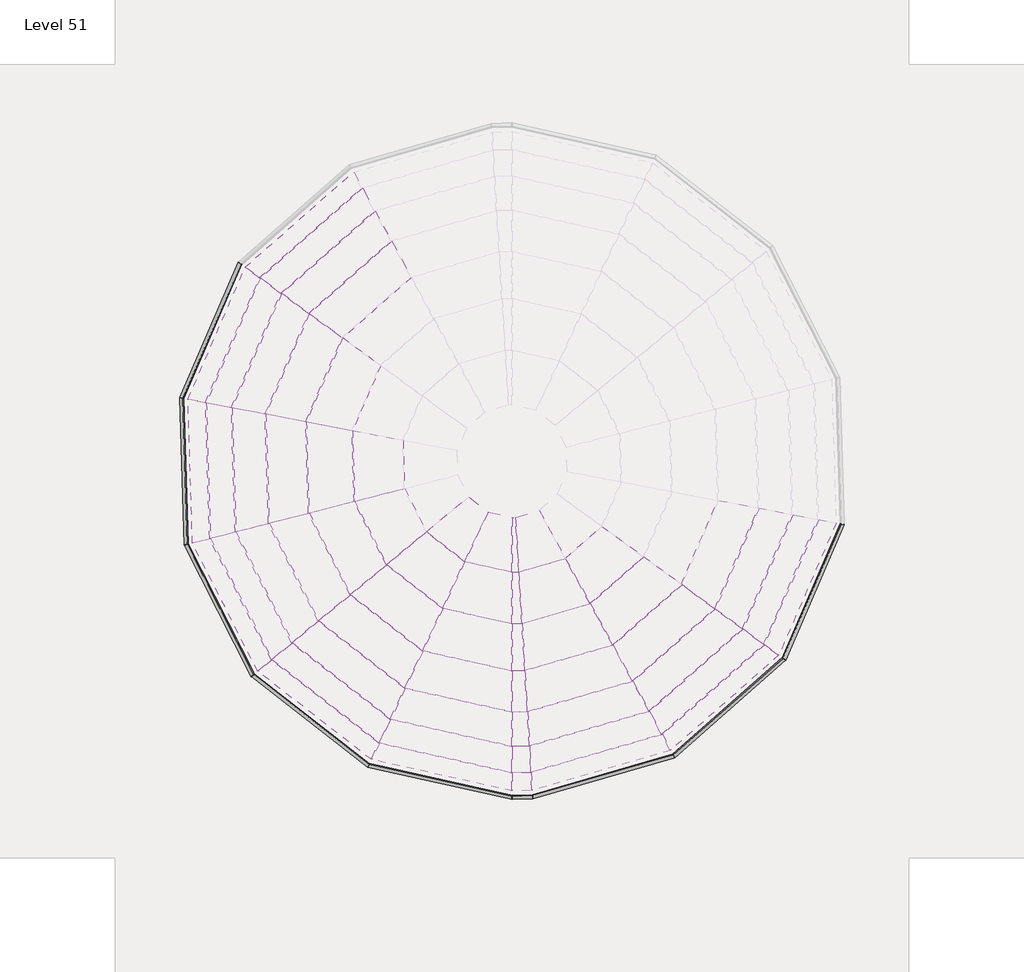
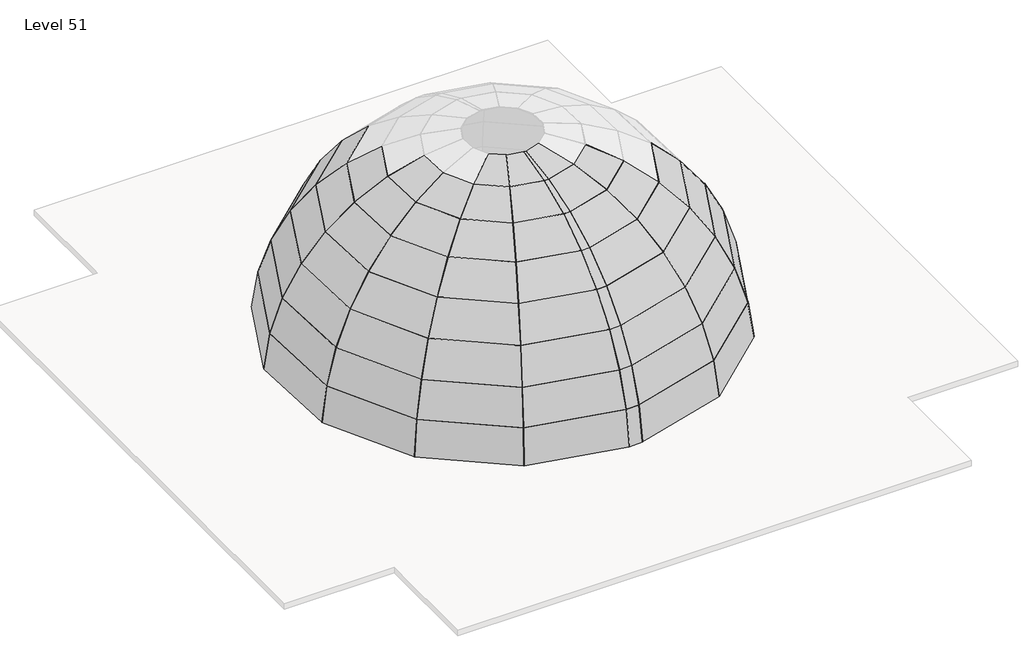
# One storey, part 1 of 2: 68 plates.
"""IFC4 building model written with IfcOpenShell, lengths in millimetres."""

from ifc_helpers import new_model, si_unit, origin, place, context, project, spatial, transform, mapped, element, save
from components import system_panel_glazed_204f7a7e, system_panel_glazed_43493433, system_panel_glazed_94d2837d, system_panel_glazed_dce3fa4b, system_panel_glazed_934d1cd6, system_panel_glazed_a686362b, system_panel_glazed_9bed2f76, system_panel_glazed_d5d8f7c1, system_panel_glazed_56061e2f, system_panel_glazed_56afd472, system_panel_glazed_cdd31af4, system_panel_glazed_3dff9bfd, system_panel_glazed_139bc032, system_panel_glazed_d13a0f6a, system_panel_glazed_7eec9ae9, system_panel_glazed_885a54fe

model = new_model("IFC4")

# Units and contexts
model_context = context("Model", 3, world=origin())
ifc_project = project(units=[si_unit("LENGTHUNIT", "METRE", prefix="MILLI")], contexts=[model_context])

# Site, building, storey
site = spatial("IfcSite", under=ifc_project)
building = spatial("IfcBuilding", under=site)
storey = spatial("IfcBuildingStorey", under=building, Name="Level 51", Elevation=152400.0)

# Plates
placement = place(None, origin())
system_panel_glazed_shape = system_panel_glazed_204f7a7e(model_context)
element("IfcPlate", 1, ObjectType="System Panel : Glazed", at=placement, inside=storey, context=model_context, shape_type="MappedRepresentation", body=[
    mapped(system_panel_glazed_shape, transform((3193.0877593, -7639.7651167, 161416.1055894), x_axis=(-0.9759000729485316, 0.2182178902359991, 0.0), y_axis=(0.05542611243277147, 0.2478731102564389, -0.9672057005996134), z_axis=(-0.2110615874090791, -0.9438961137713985, -0.2539943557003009))),
])
element("IfcPlate", 2, ObjectType="System Panel : Glazed", at=placement, inside=storey, context=model_context, shape_type="MappedRepresentation", body=[
    mapped(system_panel_glazed_shape, transform((2605.8080826, -7363.3025317, 161416.1055894), x_axis=(-0.790014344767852, 0.6130883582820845, 0.0), y_axis=(0.15572098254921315, 0.20065918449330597, -0.9672057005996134), z_axis=(-0.5929825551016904, -0.7641063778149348, -0.2539943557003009))),
])
element("IfcPlate", 3, ObjectType="System Panel : Glazed", at=placement, inside=storey, context=model_context, shape_type="MappedRepresentation", body=[
    mapped(system_panel_glazed_shape, transform((3931.1522218, -7616.9660806, 161416.1055894), x_axis=(-0.9605706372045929, -0.2780360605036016, 0.0), y_axis=(-0.07061959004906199, 0.24397952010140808, -0.9672057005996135), z_axis=(0.26891806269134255, -0.9290693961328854, -0.2539943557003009))),
])
system_panel_glazed_2_shape = system_panel_glazed_43493433(model_context)
element("IfcPlate", 4, ObjectType="System Panel : Glazed", at=placement, inside=storey, context=model_context, shape_type="MappedRepresentation", body=[
    mapped(system_panel_glazed_2_shape, transform((3564.6690003, -7710.8837141, 161416.1055894), x_axis=(-0.9995232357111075, -0.030875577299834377, 0.0), y_axis=(-0.007668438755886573, 0.24824743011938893, -0.9686663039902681), z_axis=(0.029908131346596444, -0.968204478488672, -0.2483658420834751))),
])
system_panel_glazed_3_shape = system_panel_glazed_94d2837d(model_context)
element("IfcPlate", 5, ObjectType="System Panel : Glazed", at=placement, inside=storey, context=model_context, shape_type="MappedRepresentation", body=[
    mapped(system_panel_glazed_3_shape, transform((2878.6985493, -9045.7564067, 161037.7653816), x_axis=(-0.9759000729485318, 0.21821789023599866, 0.0), y_axis=(0.09034502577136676, 0.40403523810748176, -0.9102710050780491), z_axis=(-0.19863741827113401, -0.8883335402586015, -0.41401291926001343))),
])
element("IfcPlate", 6, ObjectType="System Panel : Glazed", at=placement, inside=storey, context=model_context, shape_type="MappedRepresentation", body=[
    mapped(system_panel_glazed_3_shape, transform((1722.5241116, -8501.4859569, 161037.7653816), x_axis=(-0.7900143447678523, 0.6130883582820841, 0.0), y_axis=(0.25382650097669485, 0.32707614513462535, -0.910271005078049), z_axis=(-0.5580765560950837, -0.7191271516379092, -0.4140129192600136))),
])
element("IfcPlate", 7, ObjectType="System Panel : Glazed", at=placement, inside=storey, context=model_context, shape_type="MappedRepresentation", body=[
    mapped(system_panel_glazed_3_shape, transform((908.2759487, -7516.6156192, 161037.7653816), x_axis=(-0.45364969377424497, 0.8911800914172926, 0.0), y_axis=(0.36896007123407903, 0.18781683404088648, -0.910271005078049), z_axis=(-0.8112153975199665, -0.4129441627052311, -0.4140129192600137))),
])
element("IfcPlate", 8, ObjectType="System Panel : Glazed", at=placement, inside=storey, context=model_context, shape_type="MappedRepresentation", body=[
    mapped(system_panel_glazed_3_shape, transform((591.0489488, -6278.7397436, 161037.7653816), x_axis=(-0.030875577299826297, 0.9995232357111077, 0.0), y_axis=(0.41381553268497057, 0.01278288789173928, -0.910271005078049), z_axis=(-0.9098370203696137, -0.028105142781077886, -0.4140129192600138))),
])
element("IfcPlate", 9, ObjectType="System Panel : Glazed", at=placement, inside=storey, context=model_context, shape_type="MappedRepresentation", body=[
    mapped(system_panel_glazed_3_shape, transform((5452.0989763, -8386.278253, 161037.7653816), x_axis=(-0.7506672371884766, -0.6606804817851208, 0.0), y_axis=(-0.27353025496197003, 0.31078593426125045, -0.910271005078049), z_axis=(0.6013982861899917, -0.6833106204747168, -0.4140129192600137))),
])
element("IfcPlate", 10, ObjectType="System Panel : Glazed", at=placement, inside=storey, context=model_context, shape_type="MappedRepresentation", body=[
    mapped(system_panel_glazed_3_shape, transform((4331.7222087, -9000.8720632, 161037.7653816), x_axis=(-0.9605706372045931, -0.2780360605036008, 0.0), y_axis=(-0.11511052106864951, 0.39768865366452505, -0.910271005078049), z_axis=(0.253088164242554, -0.874379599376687, -0.4140129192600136))),
])
system_panel_glazed_4_shape = system_panel_glazed_dce3fa4b(model_context)
element("IfcPlate", 11, ObjectType="System Panel : Glazed", at=placement, inside=storey, context=model_context, shape_type="MappedRepresentation", body=[
    mapped(system_panel_glazed_4_shape, transform((3610.2286012, -9185.7672187, 161037.7653816), x_axis=(-0.9995232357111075, -0.030875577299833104, 0.0), y_axis=(-0.01253103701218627, 0.4056624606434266, -0.9139370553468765), z_axis=(0.02821833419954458, -0.9135013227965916, -0.40585595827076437))),
])
system_panel_glazed_5_shape = system_panel_glazed_934d1cd6(model_context)
element("IfcPlate", 12, ObjectType="System Panel : Glazed", at=placement, inside=storey, context=model_context, shape_type="MappedRepresentation", body=[
    mapped(system_panel_glazed_5_shape, transform((2582.0576311, -10372.3749228, 160419.4872466), x_axis=(-0.9759000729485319, 0.2182178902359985, 0.0), y_axis=(0.12247171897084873, 0.5477101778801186, -0.8276558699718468), z_axis=(-0.18060931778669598, -0.8077094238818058, -0.5612359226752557))),
])
element("IfcPlate", 13, ObjectType="System Panel : Glazed", at=placement, inside=storey, context=model_context, shape_type="MappedRepresentation", body=[
    mapped(system_panel_glazed_5_shape, transform((889.104389, -9575.4152319, 160419.4872466), x_axis=(-0.7900143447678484, 0.6130883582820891, 0.0), y_axis=(0.34408721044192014, 0.44338442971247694, -0.8276558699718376), z_axis=(-0.5074261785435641, -0.6538600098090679, -0.5612359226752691))),
])
element("IfcPlate", 14, ObjectType="System Panel : Glazed", at=placement, inside=storey, context=model_context, shape_type="MappedRepresentation", body=[
    mapped(system_panel_glazed_5_shape, transform((-303.1759645, -8133.2976958, 160419.4872466), x_axis=(-0.45364969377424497, 0.8911800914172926, 0.0), y_axis=(0.5001622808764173, 0.25460450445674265, -0.8276558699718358), z_axis=(-0.7375904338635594, -0.37546583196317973, -0.5612359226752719))),
])
element("IfcPlate", 15, ObjectType="System Panel : Glazed", at=placement, inside=storey, context=model_context, shape_type="MappedRepresentation", body=[
    mapped(system_panel_glazed_5_shape, transform((-767.6824096, -6320.7113692, 160419.4872466), x_axis=(-0.030875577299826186, 0.9995232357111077, 0.0), y_axis=(0.5609683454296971, 0.017328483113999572, -0.8276558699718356), z_axis=(-0.8272612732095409, -0.025554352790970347, -0.5612359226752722))),
])
element("IfcPlate", 16, ObjectType="System Panel : Glazed", at=placement, inside=storey, context=model_context, shape_type="MappedRepresentation", body=[
    mapped(system_panel_glazed_5_shape, transform((-415.9375282, -4482.9107904, 160419.4872466), x_axis=(0.39777960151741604, 0.9174810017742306, 0.0), y_axis=(0.5149232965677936, -0.22324820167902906, -0.8276558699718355), z_axis=(-0.759358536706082, 0.32922462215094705, -0.5612359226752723))),
])
element("IfcPlate", 17, ObjectType="System Panel : Glazed", at=placement, inside=storey, context=model_context, shape_type="MappedRepresentation", body=[
    mapped(system_panel_glazed_5_shape, transform((6350.2144542, -9406.719878, 160419.4872466), x_axis=(-0.7506672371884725, -0.6606804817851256, 0.0), y_axis=(-0.3707976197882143, 0.42130141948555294, -0.827655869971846), z_axis=(0.5468160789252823, -0.6212941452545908, -0.5612359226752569))),
])
element("IfcPlate", 18, ObjectType="System Panel : Glazed", at=placement, inside=storey, context=model_context, shape_type="MappedRepresentation", body=[
    mapped(system_panel_glazed_5_shape, transform((4709.678719, -10306.6520591, 160419.4872466), x_axis=(-0.9605706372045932, -0.27803606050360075, 0.0), y_axis=(-0.1560438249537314, 0.5391067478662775, -0.827655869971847), z_axis=(0.2301181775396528, -0.795021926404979, -0.5612359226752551))),
])
system_panel_glazed_6_shape = system_panel_glazed_a686362b(model_context)
element("IfcPlate", 19, ObjectType="System Panel : Glazed", at=placement, inside=storey, context=model_context, shape_type="MappedRepresentation", body=[
    mapped(system_panel_glazed_6_shape, transform((3653.2162146, -10577.3887601, 160419.4872466), x_axis=(-0.9995232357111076, -0.030875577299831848, 0.0), y_axis=(-0.017044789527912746, 0.5517844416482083, -0.8338125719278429), z_axis=(0.025744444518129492, -0.8334150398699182, -0.5520476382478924))),
])
system_panel_glazed_7_shape = system_panel_glazed_9bed2f76(model_context)
element("IfcPlate", 20, ObjectType="System Panel : Glazed", at=placement, inside=storey, context=model_context, shape_type="MappedRepresentation", body=[
    mapped(system_panel_glazed_7_shape, transform((2311.4050302, -11582.7701506, 159578.4455769), x_axis=(-0.9759000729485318, 0.2182178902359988, 0.0), y_axis=(0.15090926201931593, 0.6748867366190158, -0.7223256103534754), z_axis=(-0.15762437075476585, -0.7049176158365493, -0.6915531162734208))),
])
element("IfcPlate", 21, ObjectType="System Panel : Glazed", at=placement, inside=storey, context=model_context, shape_type="MappedRepresentation", body=[
    mapped(system_panel_glazed_7_shape, transform((128.6994626, -10555.2589877, 159578.4455769), x_axis=(-0.7900143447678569, 0.6130883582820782, 0.0), y_axis=(0.4239831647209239, 0.546336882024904, -0.7223256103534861), z_axis=(-0.44284942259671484, -0.5706475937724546, -0.6915531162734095))),
])
element("IfcPlate", 22, ObjectType="System Panel : Glazed", at=placement, inside=storey, context=model_context, shape_type="MappedRepresentation", body=[
    mapped(system_panel_glazed_7_shape, transform((-1408.4941827, -8695.9530738, 159578.4455769), x_axis=(-0.4536496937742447, 0.8911800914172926, 0.0), y_axis=(0.616298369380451, 0.31372285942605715, -0.7223256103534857), z_axis=(-0.6437222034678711, -0.3276827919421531, -0.6915531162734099))),
])
element("IfcPlate", 23, ObjectType="System Panel : Glazed", at=placement, inside=storey, context=model_context, shape_type="MappedRepresentation", body=[
    mapped(system_panel_glazed_7_shape, transform((-2007.3771162, -6359.0059164, 159578.4455769), x_axis=(-0.030875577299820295, 0.9995232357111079, 0.0), y_axis=(0.6912234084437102, 0.021352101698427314, -0.7223256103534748), z_axis=(-0.7219812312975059, -0.02230222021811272, -0.6915531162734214))),
])
element("IfcPlate", 24, ObjectType="System Panel : Glazed", at=placement, inside=storey, context=model_context, shape_type="MappedRepresentation", body=[
    mapped(system_panel_glazed_7_shape, transform((-1553.8763981, -3989.5503074, 159578.4455769), x_axis=(0.39777960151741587, 0.9174810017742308, 0.0), y_axis=(0.6344868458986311, -0.27508572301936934, -0.7223256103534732), z_axis=(-0.6627200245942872, 0.28732639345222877, -0.691553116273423))),
])
element("IfcPlate", 25, ObjectType="System Panel : Glazed", at=placement, inside=storey, context=model_context, shape_type="MappedRepresentation", body=[
    mapped(system_panel_glazed_7_shape, transform((-134.3731177, -2038.9111246, 159578.4455769), x_axis=(0.7506672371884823, 0.6606804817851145, 0.0), y_axis=(0.4568956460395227, -0.5191262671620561, -0.7223256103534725), z_axis=(-0.4772264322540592, 0.5422261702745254, -0.6915531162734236))),
])
element("IfcPlate", 26, ObjectType="System Panel : Glazed", at=placement, inside=storey, context=model_context, shape_type="MappedRepresentation", body=[
    mapped(system_panel_glazed_7_shape, transform((8589.1505069, -8387.1227832, 159578.4455769), x_axis=(-0.3977796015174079, -0.9174810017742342, 0.0), y_axis=(-0.6344868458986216, 0.27508572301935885, -0.7223256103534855), z_axis=(0.6627200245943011, -0.2873263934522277, -0.6915531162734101))),
])
element("IfcPlate", 27, ObjectType="System Panel : Glazed", at=placement, inside=storey, context=model_context, shape_type="MappedRepresentation", body=[
    mapped(system_panel_glazed_7_shape, transform((7169.6472265, -10337.761966, 159578.4455769), x_axis=(-0.7506672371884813, -0.6606804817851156, 0.0), y_axis=(-0.45689564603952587, 0.5191262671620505, -0.7223256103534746), z_axis=(0.4772264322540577, -0.5422261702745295, -0.6915531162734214))),
])
element("IfcPlate", 28, ObjectType="System Panel : Glazed", at=placement, inside=storey, context=model_context, shape_type="MappedRepresentation", body=[
    mapped(system_panel_glazed_7_shape, transform((5054.5229609, -11498.034402, 159578.4455769), x_axis=(-0.9605706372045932, -0.2780360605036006, 0.0), y_axis=(-0.19227670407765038, 0.6642856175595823, -0.7223256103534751), z_axis=(0.20083256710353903, -0.6938447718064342, -0.6915531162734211))),
])
system_panel_glazed_8_shape = system_panel_glazed_d5d8f7c1(model_context)
element("IfcPlate", 29, ObjectType="System Panel : Glazed", at=placement, inside=storey, context=model_context, shape_type="MappedRepresentation", body=[
    mapped(system_panel_glazed_8_shape, transform((3692.4377403, -11847.0921845, 159578.4455769), x_axis=(-0.9995232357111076, -0.030875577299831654, 0.0), y_axis=(-0.021084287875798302, 0.6825535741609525, -0.7305313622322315), z_axis=(0.02255557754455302, -0.7301830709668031, -0.6828791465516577))),
])
system_panel_glazed_9_shape = system_panel_glazed_56061e2f(model_context)
element("IfcPlate", 30, ObjectType="System Panel : Glazed", at=placement, inside=storey, context=model_context, shape_type="MappedRepresentation", body=[
    mapped(system_panel_glazed_9_shape, transform((2074.2588744, -12643.3200006, 158538.0026411), x_axis=(-0.9759000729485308, 0.2182178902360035, 0.0), y_axis=(0.17493423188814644, 0.7823296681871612, -0.5977945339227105), z_axis=(-0.13044946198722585, -0.5833877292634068, -0.8016493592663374))),
])
element("IfcPlate", 31, ObjectType="System Panel : Glazed", at=placement, inside=storey, context=model_context, shape_type="MappedRepresentation", body=[
    mapped(system_panel_glazed_9_shape, transform((-537.5683084, -11413.7993424, 158538.0026411), x_axis=(-0.7900143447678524, 0.6130883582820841, 0.0), y_axis=(0.4914818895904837, 0.6333144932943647, -0.5977945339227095), z_axis=(-0.3665008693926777, -0.47226625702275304, -0.8016493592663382))),
])
element("IfcPlate", 32, ObjectType="System Panel : Glazed", at=placement, inside=storey, context=model_context, shape_type="MappedRepresentation", body=[
    mapped(system_panel_glazed_9_shape, transform((-2376.9754221, -9188.9524372, 158538.0026411), x_axis=(-0.45364969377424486, 0.8911800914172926, 0.0), y_axis=(0.7144139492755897, 0.3636679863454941, -0.5977945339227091), z_axis=(-0.5327425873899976, -0.27118930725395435, -0.8016493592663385))),
])
element("IfcPlate", 33, ObjectType="System Panel : Glazed", at=placement, inside=storey, context=model_context, shape_type="MappedRepresentation", body=[
    mapped(system_panel_glazed_9_shape, transform((-3093.5992069, -6392.5596478, 158538.0026411), x_axis=(-0.030875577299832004, 0.9995232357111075, 0.0), y_axis=(0.8012671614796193, 0.02475138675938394, -0.5977945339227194), z_axis=(-0.5975095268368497, -0.018457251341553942, -0.801649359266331))),
])
element("IfcPlate", 34, ObjectType="System Panel : Glazed", at=placement, inside=storey, context=model_context, shape_type="MappedRepresentation", body=[
    mapped(system_panel_glazed_9_shape, transform((-2550.9398944, -3557.2672198, 158538.0026411), x_axis=(0.3977796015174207, 0.9174810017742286, 0.0), y_axis=(0.7354980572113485, -0.3188797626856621, -0.5977945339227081), z_axis=(-0.5484651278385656, 0.23779047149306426, -0.8016493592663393))),
])
element("IfcPlate", 35, ObjectType="System Panel : Glazed", at=placement, inside=storey, context=model_context, shape_type="MappedRepresentation", body=[
    mapped(system_panel_glazed_9_shape, transform((-852.361163, -1223.1308538, 158538.0026411), x_axis=(0.7506672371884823, 0.6606804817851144, 0.0), y_axis=(0.5296340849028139, -0.6017719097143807, -0.5977945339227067), z_axis=(-0.39495118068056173, 0.44874477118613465, -0.8016493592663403))),
])
element("IfcPlate", 36, ObjectType="System Panel : Glazed", at=placement, inside=storey, context=model_context, shape_type="MappedRepresentation", body=[
    mapped(system_panel_glazed_9_shape, transform((9586.2140031, -8819.4058707, 158538.0026411), x_axis=(-0.39777960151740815, -0.9174810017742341, 0.0), y_axis=(-0.7354980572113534, 0.3188797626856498, -0.5977945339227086), z_axis=(0.548465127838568, -0.23779047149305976, -0.8016493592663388))),
])
element("IfcPlate", 37, ObjectType="System Panel : Glazed", at=placement, inside=storey, context=model_context, shape_type="MappedRepresentation", body=[
    mapped(system_panel_glazed_9_shape, transform((7887.6352718, -11153.5422367, 158538.0026411), x_axis=(-0.7506672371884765, -0.6606804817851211, 0.0), y_axis=(-0.5296340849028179, 0.6017719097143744, -0.5977945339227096), z_axis=(0.3949511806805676, -0.4487447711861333, -0.8016493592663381))),
])
element("IfcPlate", 38, ObjectType="System Panel : Glazed", at=placement, inside=storey, context=model_context, shape_type="MappedRepresentation", body=[
    mapped(system_panel_glazed_9_shape, transform((5356.6759276, -12541.9251376, 158538.0026411), x_axis=(-0.9605706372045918, -0.2780360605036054, 0.0), y_axis=(-0.22288742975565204, 0.7700408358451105, -0.5977945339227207), z_axis=(0.16620843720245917, -0.5742238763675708, -0.8016493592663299))),
])
system_panel_glazed_10_shape = system_panel_glazed_56afd472(model_context)
element("IfcPlate", 39, ObjectType="System Panel : Glazed", at=placement, inside=storey, context=model_context, shape_type="MappedRepresentation", body=[
    mapped(system_panel_glazed_10_shape, transform((3726.8036913, -12959.6079522, 158538.0026411), x_axis=(-0.9995232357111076, -0.0308755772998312, 0.0), y_axis=(-0.024537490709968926, 0.7943427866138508, -0.606974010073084), z_axis=(0.018740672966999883, -0.6066846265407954, -0.7947216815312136))),
])
system_panel_glazed_11_shape = system_panel_glazed_cdd31af4(model_context)
element("IfcPlate", 40, ObjectType="System Panel : Glazed", at=placement, inside=storey, context=model_context, shape_type="MappedRepresentation", body=[
    mapped(system_panel_glazed_11_shape, transform((1877.2065569, -13524.5647545, 157327.0596321), x_axis=(-0.9759000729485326, 0.21821789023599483, 0.0), y_axis=(0.19399798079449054, 0.8675853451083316, -0.4578869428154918), z_axis=(-0.09991912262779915, -0.4468519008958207, -0.8890104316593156))),
])
element("IfcPlate", 41, ObjectType="System Panel : Glazed", at=placement, inside=storey, context=model_context, shape_type="MappedRepresentation", body=[
    mapped(system_panel_glazed_11_shape, transform((-1091.191486, -12127.1879527, 157327.0596321), x_axis=(-0.7900143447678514, 0.6130883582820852, 0.0), y_axis=(0.5450419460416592, 0.7023309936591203, -0.45788694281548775), z_axis=(-0.2807251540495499, -0.3617372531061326, -0.8890104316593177))),
])
element("IfcPlate", 42, ObjectType="System Panel : Glazed", at=placement, inside=storey, context=model_context, shape_type="MappedRepresentation", body=[
    mapped(system_panel_glazed_11_shape, transform((-3181.717426, -9598.6013591, 157327.0596321), x_axis=(-0.4536496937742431, 0.8911800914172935, 0.0), y_axis=(0.7922683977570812, 0.4032993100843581, -0.4578869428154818), z_axis=(-0.4080597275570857, -0.2077202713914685, -0.8890104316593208))),
])
element("IfcPlate", 43, ObjectType="System Panel : Glazed", at=placement, inside=storey, context=model_context, shape_type="MappedRepresentation", body=[
    mapped(system_panel_glazed_11_shape, transform((-3996.175846, -6420.4405152, 157327.0596321), x_axis=(-0.030875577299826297, 0.9995232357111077, 0.0), y_axis=(0.8885865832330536, 0.027448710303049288, -0.4578869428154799), z_axis=(-0.45766863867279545, -0.01413752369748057, -0.8890104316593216))),
])
element("IfcPlate", 44, ObjectType="System Panel : Glazed", at=placement, inside=storey, context=model_context, shape_type="MappedRepresentation", body=[
    mapped(system_panel_glazed_11_shape, transform((-3379.4318087, -3198.0693913, 157327.0596321), x_axis=(0.39777960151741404, 0.9174810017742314, 0.0), y_axis=(0.815650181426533, -0.3536302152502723, -0.45788694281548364), z_axis=(-0.42010257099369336, 0.18213808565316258, -0.8890104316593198))),
])
element("IfcPlate", 45, ObjectType="System Panel : Glazed", at=placement, inside=storey, context=model_context, shape_type="MappedRepresentation", body=[
    mapped(system_panel_glazed_11_shape, transform((-1448.960369, -545.2729634, 157327.0596321), x_axis=(0.7506672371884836, 0.660680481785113, 0.0), y_axis=(0.5873518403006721, -0.6673510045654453, -0.45788694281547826), z_axis=(-0.30251696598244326, 0.3437207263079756, -0.8890104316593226))),
])
element("IfcPlate", 46, ObjectType="System Panel : Glazed", at=placement, inside=storey, context=model_context, shape_type="MappedRepresentation", body=[
    mapped(system_panel_glazed_11_shape, transform((10414.7059175, -9178.6036992, 157327.0596321), x_axis=(-0.3977796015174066, -0.9174810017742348, 0.0), y_axis=(-0.8156501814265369, 0.3536302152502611, -0.45788694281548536), z_axis=(0.4201025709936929, -0.18213808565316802, -0.8890104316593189))),
])
element("IfcPlate", 47, ObjectType="System Panel : Glazed", at=placement, inside=storey, context=model_context, shape_type="MappedRepresentation", body=[
    mapped(system_panel_glazed_11_shape, transform((8484.2344777, -11831.4001271, 157327.0596321), x_axis=(-0.7506672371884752, -0.6606804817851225, 0.0), y_axis=(-0.5873518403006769, 0.6673510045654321, -0.45788694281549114), z_axis=(0.30251696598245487, -0.3437207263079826, -0.8890104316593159))),
])
element("IfcPlate", 48, ObjectType="System Panel : Glazed", at=placement, inside=storey, context=model_context, shape_type="MappedRepresentation", body=[
    mapped(system_panel_glazed_11_shape, transform((5607.7444811, -13409.3273013, 157327.0596321), x_axis=(-0.9605706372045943, -0.2780360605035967, 0.0), y_axis=(-0.24717695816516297, 0.8539573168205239, -0.45788694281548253), z_axis=(0.12730908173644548, -0.43983275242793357, -0.8890104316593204))),
])
system_panel_glazed_12_shape = system_panel_glazed_3dff9bfd(model_context)
element("IfcPlate", 49, ObjectType="System Panel : Glazed", at=placement, inside=storey, context=model_context, shape_type="MappedRepresentation", body=[
    mapped(system_panel_glazed_12_shape, transform((3755.359458, -13884.0328475, 157327.0596321), x_axis=(-0.9995232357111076, -0.030875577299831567, 0.0), y_axis=(-0.027308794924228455, 0.8840571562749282, -0.4665802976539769), z_axis=(0.01440593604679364, -0.4663578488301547, -0.8844788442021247))),
])
system_panel_glazed_13_shape = system_panel_glazed_139bc032(model_context)
element("IfcPlate", 50, ObjectType="System Panel : Glazed", at=placement, inside=storey, context=model_context, shape_type="MappedRepresentation", body=[
    mapped(system_panel_glazed_13_shape, transform((1725.7217533, -14202.0253915, 155979.2538554), x_axis=(-0.9759000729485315, 0.21821789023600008, 0.0), y_axis=(0.20771158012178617, 0.928914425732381, -0.30655160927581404), z_axis=(-0.06689504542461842, -0.29916373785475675, -0.9518540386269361))),
])
element("IfcPlate", 51, ObjectType="System Panel : Glazed", at=placement, inside=storey, context=model_context, shape_type="MappedRepresentation", body=[
    mapped(system_panel_glazed_13_shape, transform((-1516.7916486, -12675.6084684, 155979.2538554), x_axis=(-0.7900143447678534, 0.6130883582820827, 0.0), y_axis=(0.5835706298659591, 0.7519783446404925, -0.3065516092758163), z_axis=(-0.1879432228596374, -0.2421801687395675, -0.9518540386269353))),
])
element("IfcPlate", 52, ObjectType="System Panel : Glazed", at=placement, inside=storey, context=model_context, shape_type="MappedRepresentation", body=[
    mapped(system_panel_glazed_13_shape, transform((-3800.36625, -9913.5207028, 155979.2538554), x_axis=(-0.4536496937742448, 0.8911800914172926, 0.0), y_axis=(0.8482733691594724, 0.4318082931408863, -0.30655160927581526), z_axis=(-0.2731926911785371, -0.1390670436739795, -0.9518540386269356))),
])
element("IfcPlate", 53, ObjectType="System Panel : Glazed", at=placement, inside=storey, context=model_context, shape_type="MappedRepresentation", body=[
    mapped(system_panel_glazed_13_shape, transform((-4690.03546, -6441.8740501, 155979.2538554), x_axis=(-0.03087557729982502, 0.9995232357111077, 0.0), y_axis=(0.9514002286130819, 0.029389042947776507, -0.30655160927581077), z_axis=(-0.3064054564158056, -0.009464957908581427, -0.9518540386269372))),
])
element("IfcPlate", 54, ObjectType="System Panel : Glazed", at=placement, inside=storey, context=model_context, shape_type="MappedRepresentation", body=[
    mapped(system_panel_glazed_13_shape, transform((-4016.3384769, -2921.9345393, 155979.2538554), x_axis=(0.39777960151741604, 0.9174810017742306, 0.0), y_axis=(0.8733079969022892, -0.37862812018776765, -0.30655160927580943), z_axis=(-0.281255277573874, 0.12193997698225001, -0.9518540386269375))),
])
element("IfcPlate", 55, ObjectType="System Panel : Glazed", at=placement, inside=storey, context=model_context, shape_type="MappedRepresentation", body=[
    mapped(system_panel_glazed_13_shape, transform((-1907.5985354, -24.1668391, 155979.2538554), x_axis=(0.7506672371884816, 0.6606804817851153, 0.0), y_axis=(0.6288713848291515, -0.714525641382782, -0.30655160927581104), z_axis=(-0.20253266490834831, 0.23011824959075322, -0.951854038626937))),
])
element("IfcPlate", 56, ObjectType="System Panel : Glazed", at=placement, inside=storey, context=model_context, shape_type="MappedRepresentation", body=[
    mapped(system_panel_glazed_13_shape, transform((11051.6125856, -9454.7385513, 155979.2538554), x_axis=(-0.39777960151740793, -0.9174810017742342, 0.0), y_axis=(-0.8733079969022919, 0.3786281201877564, -0.3065516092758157), z_axis=(0.2812552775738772, -0.12193997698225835, -0.9518540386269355))),
])
element("IfcPlate", 57, ObjectType="System Panel : Glazed", at=placement, inside=storey, context=model_context, shape_type="MappedRepresentation", body=[
    mapped(system_panel_glazed_13_shape, transform((8942.8726441, -12352.5062514, 155979.2538554), x_axis=(-0.7506672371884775, -0.6606804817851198, 0.0), y_axis=(-0.6288713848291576, 0.7145256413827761, -0.30655160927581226), z_axis=(0.20253266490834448, -0.23011824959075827, -0.9518540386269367))),
])
element("IfcPlate", 58, ObjectType="System Panel : Glazed", at=placement, inside=storey, context=model_context, shape_type="MappedRepresentation", body=[
    mapped(system_panel_glazed_13_shape, transform((5800.754495, -14076.1463884, 155979.2538554), x_axis=(-0.9605706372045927, -0.27803606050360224, 0.0), y_axis=(-0.26464974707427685, 0.91432304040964, -0.3065516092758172), z_axis=(0.08523240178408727, -0.2944644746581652, -0.9518540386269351))),
])
system_panel_glazed_14_shape = system_panel_glazed_d13a0f6a(model_context)
element("IfcPlate", 59, ObjectType="System Panel : Glazed", at=placement, inside=storey, context=model_context, shape_type="MappedRepresentation", body=[
    mapped(system_panel_glazed_14_shape, transform((3777.3118246, -14594.688401, 155979.2538554), x_axis=(-0.9995232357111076, -0.03087557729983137, 0.0), y_axis=(-0.029321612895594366, 0.9492173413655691, -0.3132517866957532), z_axis=(0.00967182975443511, -0.31310243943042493, -0.9496701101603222))),
])
system_panel_glazed_15_shape = system_panel_glazed_7eec9ae9(model_context)
element("IfcPlate", 60, ObjectType="System Panel : Glazed", at=placement, inside=storey, context=model_context, shape_type="MappedRepresentation", body=[
    mapped(system_panel_glazed_15_shape, transform((1624.0123747, -14656.8835605, 154532.0243606), x_axis=(-0.9759000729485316, 0.21821789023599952, 0.0), y_axis=(0.21582297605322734, 0.9651896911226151, -0.14774743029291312), z_axis=(-0.032241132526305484, -0.14418672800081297, -0.9890251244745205))),
])
element("IfcPlate", 61, ObjectType="System Panel : Glazed", at=placement, inside=storey, context=model_context, shape_type="MappedRepresentation", body=[
    mapped(system_panel_glazed_15_shape, transform((-1802.5465695, -13043.8269862, 154532.0243606), x_axis=(-0.7900143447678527, 0.6130883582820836, 0.0), y_axis=(0.6063597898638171, 0.7813440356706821, -0.1477474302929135), z_axis=(-0.09058222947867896, -0.11672258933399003, -0.9890251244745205))),
])
element("IfcPlate", 62, ObjectType="System Panel : Glazed", at=placement, inside=storey, context=model_context, shape_type="MappedRepresentation", body=[
    mapped(system_panel_glazed_15_shape, transform((-4215.7372044, -10124.9627088, 154532.0243606), x_axis=(-0.4536496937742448, 0.8911800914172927, 0.0), y_axis=(0.8813995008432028, 0.4486709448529, -0.1477474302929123), z_axis=(-0.13166956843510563, -0.06702557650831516, -0.9890251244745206))),
])
element("IfcPlate", 63, ObjectType="System Panel : Glazed", at=placement, inside=storey, context=model_context, shape_type="MappedRepresentation", body=[
    mapped(system_panel_glazed_15_shape, transform((-5155.9041709, -6456.2648765, 154532.0243606), x_axis=(-0.03087557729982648, 0.9995232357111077, 0.0), y_axis=(0.9885535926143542, 0.03053672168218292, -0.14774743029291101), z_axis=(-0.14767698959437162, -0.004561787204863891, -0.989025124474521))),
])
element("IfcPlate", 64, ObjectType="System Panel : Glazed", at=placement, inside=storey, context=model_context, shape_type="MappedRepresentation", body=[
    mapped(system_panel_glazed_15_shape, transform((-4443.9680469, -2736.5330763, 154532.0243606), x_axis=(0.39777960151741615, 0.9174810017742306, 0.0), y_axis=(0.9074117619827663, -0.3934140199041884, -0.14774743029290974), z_axis=(-0.13555546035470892, 0.05877091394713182, -0.9890251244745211))),
])
element("IfcPlate", 65, ObjectType="System Panel : Glazed", at=placement, inside=storey, context=model_context, shape_type="MappedRepresentation", body=[
    mapped(system_panel_glazed_15_shape, transform((11479.2421557, -9640.1400142, 154532.0243606), x_axis=(-0.39777960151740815, -0.9174810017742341, 0.0), y_axis=(-0.9074117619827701, 0.39341401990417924, -0.14774743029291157), z_axis=(0.13555546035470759, -0.05877091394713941, -0.9890251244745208))),
])
element("IfcPlate", 66, ObjectType="System Panel : Glazed", at=placement, inside=storey, context=model_context, shape_type="MappedRepresentation", body=[
    mapped(system_panel_glazed_15_shape, transform((9250.8098219, -12702.3854394, 154532.0243606), x_axis=(-0.7506672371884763, -0.6606804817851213, 0.0), y_axis=(-0.6534295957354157, 0.7424287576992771, -0.14774743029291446), z_axis=(0.09761384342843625, -0.11090915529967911, -0.9890251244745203))),
])
element("IfcPlate", 67, ObjectType="System Panel : Glazed", at=placement, inside=storey, context=model_context, shape_type="MappedRepresentation", body=[
    mapped(system_panel_glazed_15_shape, transform((5930.34458, -14523.8596466, 154532.0243606), x_axis=(-0.9605706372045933, -0.2780360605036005, 0.0), y_axis=(-0.2749846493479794, 0.9500284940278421, -0.1477474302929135), z_axis=(0.041079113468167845, -0.14192184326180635, -0.9890251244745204))),
])
system_panel_glazed_16_shape = system_panel_glazed_885a54fe(model_context)
element("IfcPlate", 68, ObjectType="System Panel : Glazed", at=placement, inside=storey, context=model_context, shape_type="MappedRepresentation", body=[
    mapped(system_panel_glazed_16_shape, transform((3792.0510031, -15071.8341808, 154532.0243606), x_axis=(-0.9995232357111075, -0.0308755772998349, 0.0), y_axis=(-0.030520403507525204, 0.9880253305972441, -0.15124301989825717), z_axis=(0.004669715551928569, -0.1511709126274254, -0.9884966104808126))),
])

save(model, "model.ifc")
